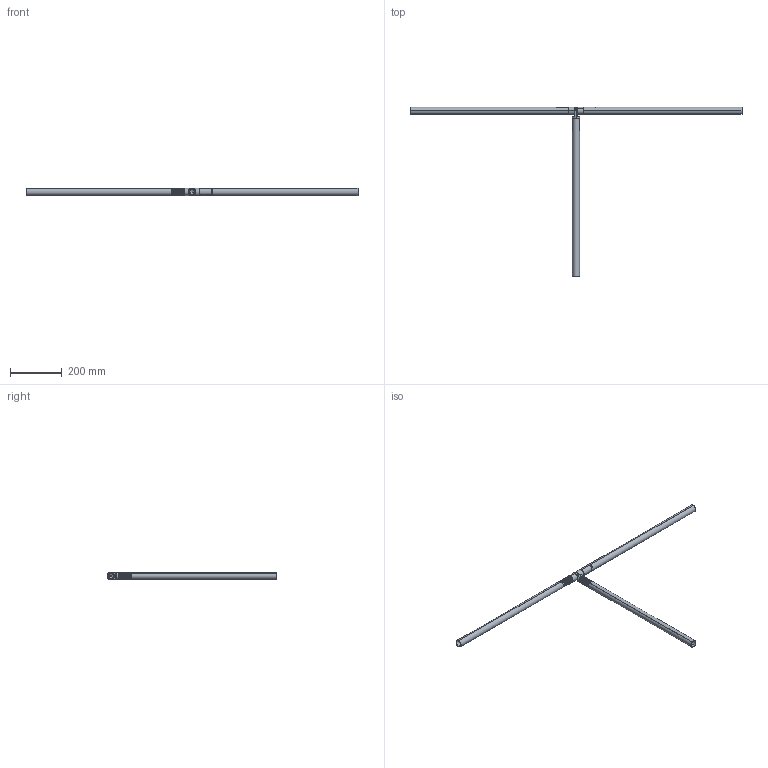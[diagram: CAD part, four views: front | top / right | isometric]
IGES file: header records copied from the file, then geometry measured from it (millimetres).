
Start section: SolidWorks IGES file using analytic representation for surfaces
Global section: file name: \\SERVER3\Design\_NEWDE~1\_DESIG~1\AAI\MODULA~1\SOLIDW~1\DEMONS~1\25DBF2~1.ASS\MODULA~1\235A3~1.COA\COAXIA~2\Threaded End Connector to Male Clevis to Threaded End Connector Connections.IGS; native system: SolidWorks 2013; preprocessor: SolidWorks 2013; author: tbraun; date: 130819.130401; units: inch
Bounding box: 1279.14 x 654.77 x 28.57 mm (x, y, z)
Surface area: 341535.3 mm2 (no closed solid volume)
Topology: 0 solids, 0 shells, 708 faces, 9155 edges, 9149 vertices
Faces by surface type: revolution 447, bspline 261
